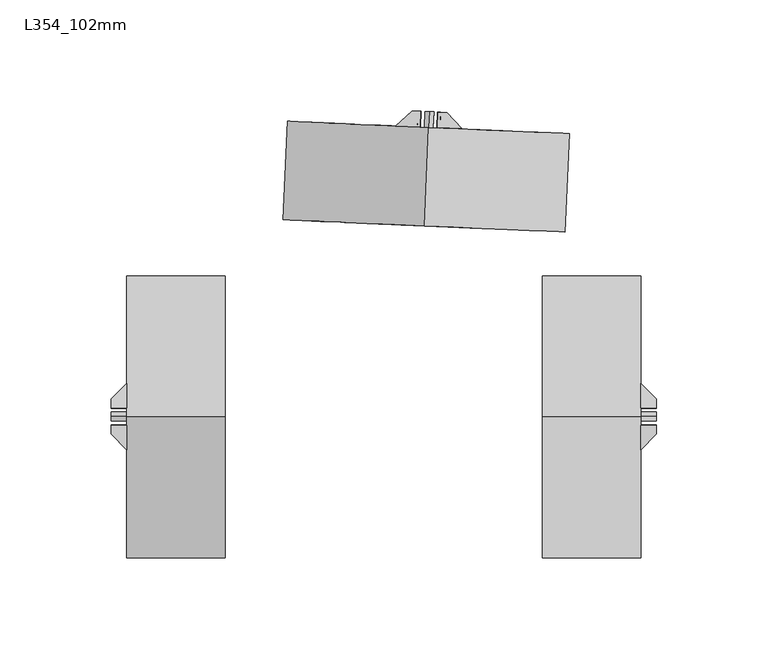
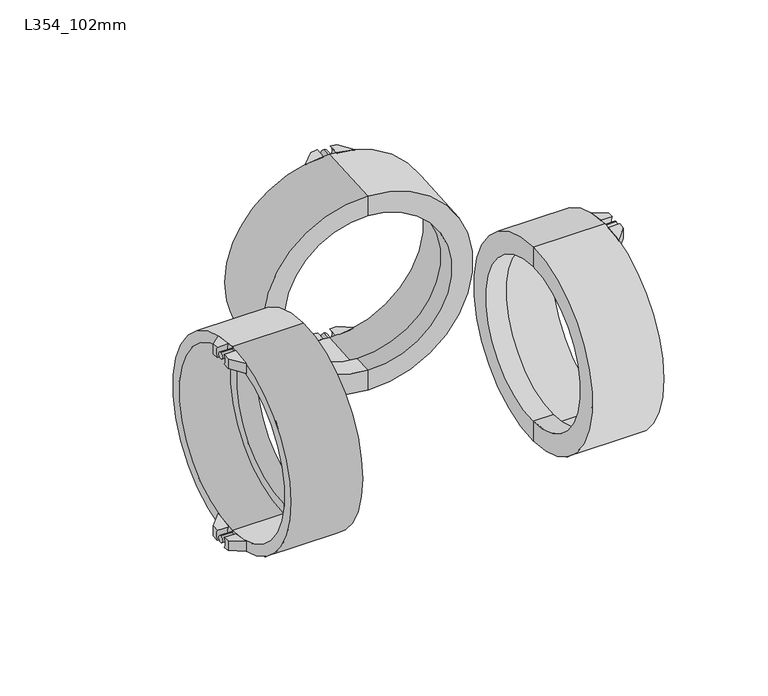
"""IFC4 building model written with IfcOpenShell, lengths in millimetres: pipe fitting geometry, Durapipe_PipeFitting_VulcatheneEnfusion_DoubleBranch_L35 : L354_102mm."""

from ifc_helpers import new_model, si_unit, point, frame, frame_2d, origin, place, context, project, spatial, polyline, circle_curve, ellipse_curve, trimmed, segment, composite_curve, outline, extrude, source, transform, mapped, element, save
from ifc_brep_helpers import plane_surface, cylinder_surface, revolved_surface, advanced_brep


def l354_102mm_f6dbf391(model_context):
    return source(origin(), model_context, "Body", "SolidModel", [
        advanced_brep(
        [(108.3904089, -3.7154965, 57.0290942), (108.3904089, -3.9197703, 63.4790942), (108.3904089, -7.94, 63.1024278), (108.3904089, -7.94, 56.5957498), (101.2904089, -15.0, 61.805825), (101.2904089, -3.9197703, 63.4790942), (101.2904089, -3.7154965, 57.0290942), (101.2904089, -15.0, 55.1463734)],
        [
            (0, 1, circle_curve(frame((108.3904089, 0.0, 60.375), z_axis=(-1.0, 0.0, 0.0), x_axis=(0.0, 0.0, -1.0)), 5.0)),
            (1, 2, circle_curve(frame((108.3904089, 0.0, 0.0), z_axis=(1.0, 0.0, 0.0), x_axis=(0.0, 0.0, -1.0)), 63.6)),
            (2, 3),
            (3, 0, circle_curve(frame((108.3904089, 0.0, 0.0), z_axis=(-1.0, 0.0, 0.0), x_axis=(0.0, 0.0, -1.0)), 57.15)),
            (4, 5, circle_curve(frame((101.2904089, 0.0, 0.0), z_axis=(-1.0, 0.0, 0.0), x_axis=(0.0, 0.0, -1.0)), 63.6)),
            (5, 6, circle_curve(frame((101.2904089, 0.0, 60.375), z_axis=(1.0, 0.0, 0.0), x_axis=(0.0, 0.0, -1.0)), 5.0)),
            (6, 7, circle_curve(frame((101.2904089, 0.0, 0.0), z_axis=(1.0, 0.0, 0.0), x_axis=(0.0, 0.0, -1.0)), 57.15)),
            (7, 4),
            (6, 0),
            (3, 7, ellipse_curve(frame((116.3753947, 0.0, 0.0), z_axis=(0.705106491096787, -0.7091014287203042, 0.0), x_axis=(-0.7091014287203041, -0.705106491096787, 0.0)), 81.0515868, 57.15)),
            (4, 2, ellipse_curve(frame((116.3753947, 0.0, 0.0), z_axis=(-0.705106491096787, 0.7091014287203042, 0.0), x_axis=(0.7091014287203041, 0.705106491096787, 0.0)), 90.1991413, 63.6)),
            (1, 5),
        ],
        [
            plane_surface(frame((108.3904089, -15.0, 61.805825), z_axis=(1.0, 0.0, 0.0), x_axis=(0.0, 0.0, -1.0))),
            plane_surface(frame((101.2904089, -15.0, 61.805825), z_axis=(-1.0, 0.0, 0.0), x_axis=(0.0, 0.0, 1.0))),
            revolved_surface(polyline([(58.90159870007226, 0.0, -57.15), (173.84919069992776, 0.0, -57.15)]), (101.2904089, 0.0, 0.0), (-1.0, 0.0, 0.0)),
            cylinder_surface(frame((101.2904089, 0.0, 0.0), z_axis=(1.0, 0.0, 0.0), x_axis=(0.0, 0.0, -1.0)), 63.6),
            revolved_surface(polyline([(108.3904089, 0.0, 55.375), (101.2904089, 0.0, 55.375)]), (101.2904089, 0.0, 60.375), (1.0, 0.0, 0.0)),
            plane_surface(frame((101.2904089, -15.0, -63.6), z_axis=(0.705106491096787, -0.7091014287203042, 0.0), x_axis=(0.0, 0.0, 1.0))),
        ],
        [
            (0, [[1, 2, 3, 4]]),
            (1, [[5, 6, 7, 8]]),
            (2, [[-7, 9, -4, 10]]),
            (3, [[-5, 11, -2, 12]]),
            (4, [[-1, -9, -6, -12]]),
            (5, [[-3, -11, -8, -10]]),
        ],
    ),
        advanced_brep(
        [(108.3904089, 3.9197703, 63.4790942), (108.3904089, 3.7154965, 57.0290942), (108.3904089, 7.94, 56.5957498), (108.3904089, 7.94, 63.1024278), (101.2904089, 3.9197703, 63.4790942), (101.2904089, 15.0, 61.805825), (101.2904089, 15.0, 55.1463734), (101.2904089, 3.7154965, 57.0290942)],
        [
            (0, 1, circle_curve(frame((108.3904089, 0.0, 60.375), z_axis=(-1.0, 0.0, 0.0), x_axis=(0.0, 0.0, -1.0)), 5.0)),
            (1, 2, circle_curve(frame((108.3904089, 0.0, 0.0), z_axis=(-1.0, 0.0, 0.0), x_axis=(0.0, 0.0, -1.0)), 57.15)),
            (2, 3),
            (3, 0, circle_curve(frame((108.3904089, 0.0, 0.0), z_axis=(1.0, 0.0, 0.0), x_axis=(0.0, 0.0, -1.0)), 63.6)),
            (4, 5, circle_curve(frame((101.2904089, 0.0, 0.0), z_axis=(-1.0, 0.0, 0.0), x_axis=(0.0, 0.0, -1.0)), 63.6)),
            (5, 6),
            (6, 7, circle_curve(frame((101.2904089, 0.0, 0.0), z_axis=(1.0, 0.0, 0.0), x_axis=(0.0, 0.0, -1.0)), 57.15)),
            (7, 4, circle_curve(frame((101.2904089, 0.0, 60.375), z_axis=(1.0, 0.0, 0.0), x_axis=(0.0, 0.0, -1.0)), 5.0)),
            (6, 2, ellipse_curve(frame((116.3753947, 0.0, 0.0), z_axis=(0.7051064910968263, 0.7091014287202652, 0.0), x_axis=(-0.7091014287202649, 0.7051064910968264, 0.0)), 81.0515868, 57.15)),
            (1, 7),
            (4, 0),
            (3, 5, ellipse_curve(frame((116.3753947, 0.0, 0.0), z_axis=(-0.7051064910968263, -0.7091014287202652, 0.0), x_axis=(0.7091014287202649, -0.7051064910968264, 0.0)), 90.1991413, 63.6)),
        ],
        [
            plane_surface(frame((108.3904089, -15.0, 61.805825), z_axis=(1.0, 0.0, 0.0), x_axis=(0.0, 0.0, -1.0))),
            plane_surface(frame((101.2904089, -15.0, 61.805825), z_axis=(-1.0, 0.0, 0.0), x_axis=(0.0, 0.0, 1.0))),
            revolved_surface(polyline([(58.90159870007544, 0.0, -57.15), (173.84919069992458, 0.0, -57.15)]), (101.2904089, 0.0, 0.0), (-1.0, 0.0, 0.0)),
            cylinder_surface(frame((101.2904089, 0.0, 0.0), z_axis=(1.0, 0.0, 0.0), x_axis=(0.0, 0.0, -1.0)), 63.6),
            revolved_surface(polyline([(108.3904089, 0.0, 55.375), (101.2904089, 0.0, 55.375)]), (101.2904089, 0.0, 60.375), (1.0, 0.0, 0.0)),
            plane_surface(frame((108.3904089, 7.94, -63.6), z_axis=(0.7051064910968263, 0.7091014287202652, 0.0), x_axis=(0.0, 0.0, 1.0))),
        ],
        [
            (0, [[1, 2, 3, 4]]),
            (1, [[5, 6, 7, 8]]),
            (2, [[-7, 9, -2, 10]]),
            (3, [[-5, 11, -4, 12]]),
            (4, [[-1, -11, -8, -10]]),
            (5, [[-3, -9, -6, -12]]),
        ],
    ),
        advanced_brep(
        [(108.3904089, -3.9197703, -63.4790942), (108.3904089, -3.7154965, -57.0290942), (108.3904089, -7.94, -56.5957498), (108.3904089, -7.94, -63.1024278), (101.2904089, -3.9197703, -63.4790942), (101.2904089, -15.0, -61.805825), (101.2904089, -15.0, -55.1463734), (101.2904089, -3.7154965, -57.0290942)],
        [
            (0, 1, circle_curve(frame((108.3904089, 0.0, -60.375), z_axis=(-1.0, 0.0, 0.0), x_axis=(0.0, 0.0, -1.0)), 5.0)),
            (1, 2, circle_curve(frame((108.3904089, 0.0, 0.0), z_axis=(-1.0, 0.0, 0.0), x_axis=(0.0, 0.0, -1.0)), 57.15)),
            (2, 3),
            (3, 0, circle_curve(frame((108.3904089, 0.0, 0.0), z_axis=(1.0, 0.0, 0.0), x_axis=(0.0, 0.0, -1.0)), 63.6)),
            (4, 5, circle_curve(frame((101.2904089, 0.0, 0.0), z_axis=(-1.0, 0.0, 0.0), x_axis=(0.0, 0.0, -1.0)), 63.6)),
            (5, 6),
            (6, 7, circle_curve(frame((101.2904089, 0.0, 0.0), z_axis=(1.0, 0.0, 0.0), x_axis=(0.0, 0.0, -1.0)), 57.15)),
            (7, 4, circle_curve(frame((101.2904089, 0.0, -60.375), z_axis=(1.0, 0.0, 0.0), x_axis=(0.0, 0.0, -1.0)), 5.0)),
            (6, 2, ellipse_curve(frame((116.3753947, 0.0, 0.0), z_axis=(0.705106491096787, -0.7091014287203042, 0.0), x_axis=(-0.7091014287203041, -0.705106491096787, 0.0)), 81.0515868, 57.15)),
            (1, 7),
            (4, 0),
            (3, 5, ellipse_curve(frame((116.3753947, 0.0, 0.0), z_axis=(-0.705106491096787, 0.7091014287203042, 0.0), x_axis=(0.7091014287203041, 0.705106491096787, 0.0)), 90.1991413, 63.6)),
        ],
        [
            plane_surface(frame((108.3904089, -15.0, 61.805825), z_axis=(1.0, 0.0, 0.0), x_axis=(0.0, 0.0, -1.0))),
            plane_surface(frame((101.2904089, -15.0, 61.805825), z_axis=(-1.0, 0.0, 0.0), x_axis=(0.0, 0.0, 1.0))),
            revolved_surface(polyline([(58.90159870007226, 0.0, -57.15), (173.84919069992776, 0.0, -57.15)]), (101.2904089, 0.0, 0.0), (-1.0, 0.0, 0.0)),
            cylinder_surface(frame((101.2904089, 0.0, 0.0), z_axis=(1.0, 0.0, 0.0), x_axis=(0.0, 0.0, -1.0)), 63.6),
            revolved_surface(polyline([(108.3904089, 0.0, -65.375), (101.2904089, 0.0, -65.375)]), (101.2904089, 0.0, -60.375), (1.0, 0.0, 0.0)),
            plane_surface(frame((101.2904089, -15.0, -63.6), z_axis=(0.705106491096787, -0.7091014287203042, 0.0), x_axis=(0.0, 0.0, 1.0))),
        ],
        [
            (0, [[1, 2, 3, 4]]),
            (1, [[5, 6, 7, 8]]),
            (2, [[-7, 9, -2, 10]]),
            (3, [[-5, 11, -4, 12]]),
            (4, [[-1, -11, -8, -10]]),
            (5, [[-3, -9, -6, -12]]),
        ],
    ),
        advanced_brep(
        [(108.3904089, 3.7154965, -57.0290942), (108.3904089, 3.9197703, -63.4790942), (108.3904089, 7.94, -63.1024278), (108.3904089, 7.94, -56.5957498), (101.2904089, 15.0, -61.805825), (101.2904089, 3.9197703, -63.4790942), (101.2904089, 3.7154965, -57.0290942), (101.2904089, 15.0, -55.1463734)],
        [
            (0, 1, circle_curve(frame((108.3904089, 0.0, -60.375), z_axis=(-1.0, 0.0, 0.0), x_axis=(0.0, 0.0, -1.0)), 5.0)),
            (1, 2, circle_curve(frame((108.3904089, 0.0, 0.0), z_axis=(1.0, 0.0, 0.0), x_axis=(0.0, 0.0, -1.0)), 63.6)),
            (2, 3),
            (3, 0, circle_curve(frame((108.3904089, 0.0, 0.0), z_axis=(-1.0, 0.0, 0.0), x_axis=(0.0, 0.0, -1.0)), 57.15)),
            (4, 5, circle_curve(frame((101.2904089, 0.0, 0.0), z_axis=(-1.0, 0.0, 0.0), x_axis=(0.0, 0.0, -1.0)), 63.6)),
            (5, 6, circle_curve(frame((101.2904089, 0.0, -60.375), z_axis=(1.0, 0.0, 0.0), x_axis=(0.0, 0.0, -1.0)), 5.0)),
            (6, 7, circle_curve(frame((101.2904089, 0.0, 0.0), z_axis=(1.0, 0.0, 0.0), x_axis=(0.0, 0.0, -1.0)), 57.15)),
            (7, 4),
            (6, 0),
            (3, 7, ellipse_curve(frame((116.3753947, 0.0, 0.0), z_axis=(0.7051064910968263, 0.7091014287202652, 0.0), x_axis=(-0.7091014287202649, 0.7051064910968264, 0.0)), 81.0515868, 57.15)),
            (4, 2, ellipse_curve(frame((116.3753947, 0.0, 0.0), z_axis=(-0.7051064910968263, -0.7091014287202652, 0.0), x_axis=(0.7091014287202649, -0.7051064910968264, 0.0)), 90.1991413, 63.6)),
            (1, 5),
        ],
        [
            plane_surface(frame((108.3904089, -15.0, 61.805825), z_axis=(1.0, 0.0, 0.0), x_axis=(0.0, 0.0, -1.0))),
            plane_surface(frame((101.2904089, -15.0, 61.805825), z_axis=(-1.0, 0.0, 0.0), x_axis=(0.0, 0.0, 1.0))),
            revolved_surface(polyline([(58.90159870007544, 0.0, -57.15), (173.84919069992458, 0.0, -57.15)]), (101.2904089, 0.0, 0.0), (-1.0, 0.0, 0.0)),
            cylinder_surface(frame((101.2904089, 0.0, 0.0), z_axis=(1.0, 0.0, 0.0), x_axis=(0.0, 0.0, -1.0)), 63.6),
            revolved_surface(polyline([(108.3904089, 0.0, -65.375), (101.2904089, 0.0, -65.375)]), (101.2904089, 0.0, -60.375), (1.0, 0.0, 0.0)),
            plane_surface(frame((108.3904089, 7.94, -63.6), z_axis=(0.7051064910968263, 0.7091014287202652, 0.0), x_axis=(0.0, 0.0, 1.0))),
        ],
        [
            (0, [[1, 2, 3, 4]]),
            (1, [[5, 6, 7, 8]]),
            (2, [[-7, 9, -4, 10]]),
            (3, [[-5, 11, -2, 12]]),
            (4, [[-1, -9, -6, -12]]),
            (5, [[-3, -11, -8, -10]]),
        ],
    ),
        extrude(outline(composite_curve([segment(trimmed(circle_curve(frame_2d((0.0, 60.375)), 2.0), [point((0.0, 62.375))], [point((0.0, 58.375))], False, "CARTESIAN"), True, "CONTINUOUS"), segment(trimmed(circle_curve(frame_2d((0.0, 60.375)), 2.0), [point((0.0, 58.375))], [point((0.0, 62.375))], False, "CARTESIAN"), True, "CONTINUOUS")], self_intersect=False)), frame((101.2904089, 0.0, 0.0), z_axis=(1.0, 0.0, 0.0), x_axis=(0.0, 1.0, 0.0)), (0.0, 0.0, 1.0), 7.1),
        extrude(outline(composite_curve([segment(trimmed(circle_curve(frame_2d((0.0, -60.375)), 2.0), [point((0.0, -58.375))], [point((0.0, -62.375))], False, "CARTESIAN"), True, "CONTINUOUS"), segment(trimmed(circle_curve(frame_2d((0.0, -60.375)), 2.0), [point((0.0, -62.375))], [point((0.0, -58.375))], False, "CARTESIAN"), True, "CONTINUOUS")], self_intersect=False)), frame((101.2904089, 0.0, 0.0), z_axis=(1.0, 0.0, 0.0), x_axis=(0.0, 1.0, 0.0)), (0.0, 0.0, 1.0), 7.1),
        advanced_brep(
        [(69.2904089, 0.0, 50.8), (69.2904089, 0.0, -50.8), (69.2904089, 0.0, -57.0), (69.2904089, 0.0, 57.0), (56.8904089, 0.0, 50.8), (56.8904089, 0.0, -50.8), (56.8904089, 0.0, 63.75), (56.8904089, 0.0, -63.75), (101.2904089, 0.0, 63.75), (101.2904089, 0.0, -63.75), (101.2904089, 0.0, 57.0), (101.2904089, 0.0, -57.0)],
        [
            (0, 1, circle_curve(frame((69.2904089, 0.0, 0.0), z_axis=(-1.0, 0.0, 0.0), x_axis=(0.0, 0.0, -1.0)), 50.8)),
            (1, 2),
            (2, 3, circle_curve(frame((69.2904089, 0.0, 0.0), z_axis=(1.0, 0.0, 0.0), x_axis=(0.0, 0.0, -1.0)), 57.0)),
            (3, 0),
            (1, 0, circle_curve(frame((69.2904089, 0.0, 0.0), z_axis=(-1.0, 0.0, 0.0), x_axis=(0.0, 0.0, -1.0)), 50.8)),
            (3, 2, circle_curve(frame((69.2904089, 0.0, 0.0), z_axis=(1.0, 0.0, 0.0), x_axis=(0.0, 0.0, -1.0)), 57.0)),
            (4, 5, circle_curve(frame((56.8904089, 0.0, 0.0), z_axis=(-1.0, 0.0, 0.0), x_axis=(0.0, 0.0, -1.0)), 50.8)),
            (5, 1),
            (0, 4),
            (5, 4, circle_curve(frame((56.8904089, 0.0, 0.0), z_axis=(-1.0, 0.0, 0.0), x_axis=(0.0, 0.0, -1.0)), 50.8)),
            (6, 7, circle_curve(frame((56.8904089, 0.0, 0.0), z_axis=(-1.0, 0.0, 0.0), x_axis=(0.0, 0.0, -1.0)), 63.75)),
            (7, 5),
            (4, 6),
            (7, 6, circle_curve(frame((56.8904089, 0.0, 0.0), z_axis=(-1.0, 0.0, 0.0), x_axis=(0.0, 0.0, -1.0)), 63.75)),
            (8, 9, circle_curve(frame((101.2904089, 0.0, 0.0), z_axis=(-1.0, 0.0, 0.0), x_axis=(0.0, 0.0, -1.0)), 63.75)),
            (9, 7),
            (6, 8),
            (9, 8, circle_curve(frame((101.2904089, 0.0, 0.0), z_axis=(-1.0, 0.0, 0.0), x_axis=(0.0, 0.0, -1.0)), 63.75)),
            (10, 11, circle_curve(frame((101.2904089, 0.0, 0.0), z_axis=(-1.0, 0.0, 0.0), x_axis=(0.0, 0.0, -1.0)), 57.0)),
            (11, 9),
            (8, 10),
            (11, 10, circle_curve(frame((101.2904089, 0.0, 0.0), z_axis=(-1.0, 0.0, 0.0), x_axis=(0.0, 0.0, -1.0)), 57.0)),
            (2, 11),
            (10, 3),
        ],
        [
            plane_surface(frame((69.2904089, 0.0, 0.0), z_axis=(1.0, 0.0, 0.0), x_axis=(0.0, 0.0, -1.0))),
            revolved_surface(polyline([(69.29040889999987, 0.0, -50.8), (56.890408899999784, 0.0, -50.8)]), (2615.273033, 0.0, 0.0), (1.0, 0.0, 0.0)),
            plane_surface(frame((56.8904089, 0.0, 0.0), z_axis=(-1.0, 0.0, 0.0), x_axis=(0.0, 0.0, -1.0))),
            cylinder_surface(frame((2615.273033, 0.0, 0.0), z_axis=(1.0, 0.0, 0.0), x_axis=(0.0, 0.0, -1.0)), 63.75),
            plane_surface(frame((101.2904089, 0.0, 0.0), z_axis=(1.0, 0.0, 0.0), x_axis=(0.0, 0.0, -1.0))),
            revolved_surface(polyline([(101.29040889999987, 0.0, -57.0), (69.29040889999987, 0.0, -57.0)]), (2615.273033, 0.0, 0.0), (1.0, 0.0, 0.0)),
        ],
        [
            (0, [[1, 2, 3, 4]]),
            (0, [[5, -4, 6, -2]]),
            (1, [[7, 8, -1, 9]]),
            (1, [[10, -9, -5, -8]]),
            (2, [[11, 12, -7, 13]]),
            (2, [[14, -13, -10, -12]]),
            (3, [[15, 16, -11, 17]]),
            (3, [[18, -17, -14, -16]]),
            (4, [[19, 20, -15, 21]]),
            (4, [[22, -21, -18, -20]]),
            (5, [[-3, 23, -19, 24]]),
            (5, [[-6, -24, -22, -23]]),
        ],
    ),
        advanced_brep(
        [(-137.5095911, -3.7154965, -57.0290942), (-137.5095911, -3.9197703, -63.4790942), (-137.5095911, -7.94, -63.1024278), (-137.5095911, -7.94, -56.5957498), (-130.4095911, -15.0, -61.805825), (-130.4095911, -3.9197703, -63.4790942), (-130.4095911, -3.7154965, -57.0290942), (-130.4095911, -15.0, -55.1463734)],
        [
            (0, 1, circle_curve(frame((-137.5095911, 0.0, -60.375), z_axis=(1.0, 0.0, 0.0), x_axis=(0.0, 0.0, 1.0)), 5.0)),
            (1, 2, circle_curve(frame((-137.5095911, 0.0, 0.0), z_axis=(-1.0, 0.0, 0.0), x_axis=(0.0, 0.0, 1.0)), 63.6)),
            (2, 3),
            (3, 0, circle_curve(frame((-137.5095911, 0.0, 0.0), z_axis=(1.0, 0.0, 0.0), x_axis=(0.0, 0.0, 1.0)), 57.15)),
            (4, 5, circle_curve(frame((-130.4095911, 0.0, 0.0), z_axis=(1.0, 0.0, 0.0), x_axis=(0.0, 0.0, 1.0)), 63.6)),
            (5, 6, circle_curve(frame((-130.4095911, 0.0, -60.375), z_axis=(-1.0, 0.0, 0.0), x_axis=(0.0, 0.0, 1.0)), 5.0)),
            (6, 7, circle_curve(frame((-130.4095911, 0.0, 0.0), z_axis=(-1.0, 0.0, 0.0), x_axis=(0.0, 0.0, 1.0)), 57.15)),
            (7, 4),
            (6, 0),
            (3, 7, ellipse_curve(frame((-145.4945769, 0.0, 0.0), z_axis=(-0.705106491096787, -0.7091014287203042, 0.0), x_axis=(0.7091014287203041, -0.7051064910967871, 0.0)), 81.0515868, 57.15)),
            (4, 2, ellipse_curve(frame((-145.4945769, 0.0, 0.0), z_axis=(0.705106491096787, 0.7091014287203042, 0.0), x_axis=(-0.7091014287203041, 0.7051064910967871, 0.0)), 90.1991413, 63.6)),
            (1, 5),
        ],
        [
            plane_surface(frame((-137.5095911, -15.0, -61.805825), z_axis=(-1.0, 0.0, 0.0), x_axis=(0.0, 0.0, 1.0))),
            plane_surface(frame((-130.4095911, -15.0, -61.805825), z_axis=(1.0, 0.0, 0.0), x_axis=(0.0, 0.0, -1.0))),
            revolved_surface(polyline([(-88.02078090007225, 0.0, 57.15), (-202.96837289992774, 0.0, 57.15)]), (-130.4095911, 0.0, 0.0), (1.0, 0.0, 0.0)),
            cylinder_surface(frame((-130.4095911, 0.0, 0.0), z_axis=(-1.0, 0.0, 0.0), x_axis=(0.0, 0.0, 1.0)), 63.6),
            revolved_surface(polyline([(-137.5095911, 0.0, -55.375), (-130.4095911, 0.0, -55.375)]), (-130.4095911, 0.0, -60.375), (-1.0, 0.0, 0.0)),
            plane_surface(frame((-130.4095911, -15.0, 63.6), z_axis=(-0.705106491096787, -0.7091014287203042, 0.0), x_axis=(0.0, 0.0, -1.0))),
        ],
        [
            (0, [[1, 2, 3, 4]]),
            (1, [[5, 6, 7, 8]]),
            (2, [[-7, 9, -4, 10]]),
            (3, [[-5, 11, -2, 12]]),
            (4, [[-1, -9, -6, -12]]),
            (5, [[-3, -11, -8, -10]]),
        ],
    ),
        advanced_brep(
        [(-137.5095911, 3.9197703, -63.4790942), (-137.5095911, 3.7154965, -57.0290942), (-137.5095911, 7.94, -56.5957498), (-137.5095911, 7.94, -63.1024278), (-130.4095911, 3.9197703, -63.4790942), (-130.4095911, 15.0, -61.805825), (-130.4095911, 15.0, -55.1463734), (-130.4095911, 3.7154965, -57.0290942)],
        [
            (0, 1, circle_curve(frame((-137.5095911, 0.0, -60.375), z_axis=(1.0, 0.0, 0.0), x_axis=(0.0, 0.0, 1.0)), 5.0)),
            (1, 2, circle_curve(frame((-137.5095911, 0.0, 0.0), z_axis=(1.0, 0.0, 0.0), x_axis=(0.0, 0.0, 1.0)), 57.15)),
            (2, 3),
            (3, 0, circle_curve(frame((-137.5095911, 0.0, 0.0), z_axis=(-1.0, 0.0, 0.0), x_axis=(0.0, 0.0, 1.0)), 63.6)),
            (4, 5, circle_curve(frame((-130.4095911, 0.0, 0.0), z_axis=(1.0, 0.0, 0.0), x_axis=(0.0, 0.0, 1.0)), 63.6)),
            (5, 6),
            (6, 7, circle_curve(frame((-130.4095911, 0.0, 0.0), z_axis=(-1.0, 0.0, 0.0), x_axis=(0.0, 0.0, 1.0)), 57.15)),
            (7, 4, circle_curve(frame((-130.4095911, 0.0, -60.375), z_axis=(-1.0, 0.0, 0.0), x_axis=(0.0, 0.0, 1.0)), 5.0)),
            (6, 2, ellipse_curve(frame((-145.4945769, 0.0, 0.0), z_axis=(-0.7051064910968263, 0.7091014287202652, 0.0), x_axis=(0.7091014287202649, 0.7051064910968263, 0.0)), 81.0515868, 57.15)),
            (1, 7),
            (4, 0),
            (3, 5, ellipse_curve(frame((-145.4945769, 0.0, 0.0), z_axis=(0.7051064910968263, -0.7091014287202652, 0.0), x_axis=(-0.7091014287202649, -0.7051064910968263, 0.0)), 90.1991413, 63.6)),
        ],
        [
            plane_surface(frame((-137.5095911, -15.0, -61.805825), z_axis=(-1.0, 0.0, 0.0), x_axis=(0.0, 0.0, 1.0))),
            plane_surface(frame((-130.4095911, -15.0, -61.805825), z_axis=(1.0, 0.0, 0.0), x_axis=(0.0, 0.0, -1.0))),
            revolved_surface(polyline([(-88.02078090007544, 0.0, 57.15), (-202.96837289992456, 0.0, 57.15)]), (-130.4095911, 0.0, 0.0), (1.0, 0.0, 0.0)),
            cylinder_surface(frame((-130.4095911, 0.0, 0.0), z_axis=(-1.0, 0.0, 0.0), x_axis=(0.0, 0.0, 1.0)), 63.6),
            revolved_surface(polyline([(-137.5095911, 0.0, -55.375), (-130.4095911, 0.0, -55.375)]), (-130.4095911, 0.0, -60.375), (-1.0, 0.0, 0.0)),
            plane_surface(frame((-137.5095911, 7.94, 63.6), z_axis=(-0.7051064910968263, 0.7091014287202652, 0.0), x_axis=(0.0, 0.0, -1.0))),
        ],
        [
            (0, [[1, 2, 3, 4]]),
            (1, [[5, 6, 7, 8]]),
            (2, [[-7, 9, -2, 10]]),
            (3, [[-5, 11, -4, 12]]),
            (4, [[-1, -11, -8, -10]]),
            (5, [[-3, -9, -6, -12]]),
        ],
    ),
        advanced_brep(
        [(-137.5095911, -3.9197703, 63.4790942), (-137.5095911, -3.7154965, 57.0290942), (-137.5095911, -7.94, 56.5957498), (-137.5095911, -7.94, 63.1024278), (-130.4095911, -3.9197703, 63.4790942), (-130.4095911, -15.0, 61.805825), (-130.4095911, -15.0, 55.1463734), (-130.4095911, -3.7154965, 57.0290942)],
        [
            (0, 1, circle_curve(frame((-137.5095911, 0.0, 60.375), z_axis=(1.0, 0.0, 0.0), x_axis=(0.0, 0.0, 1.0)), 5.0)),
            (1, 2, circle_curve(frame((-137.5095911, 0.0, 0.0), z_axis=(1.0, 0.0, 0.0), x_axis=(0.0, 0.0, 1.0)), 57.15)),
            (2, 3),
            (3, 0, circle_curve(frame((-137.5095911, 0.0, 0.0), z_axis=(-1.0, 0.0, 0.0), x_axis=(0.0, 0.0, 1.0)), 63.6)),
            (4, 5, circle_curve(frame((-130.4095911, 0.0, 0.0), z_axis=(1.0, 0.0, 0.0), x_axis=(0.0, 0.0, 1.0)), 63.6)),
            (5, 6),
            (6, 7, circle_curve(frame((-130.4095911, 0.0, 0.0), z_axis=(-1.0, 0.0, 0.0), x_axis=(0.0, 0.0, 1.0)), 57.15)),
            (7, 4, circle_curve(frame((-130.4095911, 0.0, 60.375), z_axis=(-1.0, 0.0, 0.0), x_axis=(0.0, 0.0, 1.0)), 5.0)),
            (6, 2, ellipse_curve(frame((-145.4945769, 0.0, 0.0), z_axis=(-0.705106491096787, -0.7091014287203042, 0.0), x_axis=(0.7091014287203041, -0.7051064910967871, 0.0)), 81.0515868, 57.15)),
            (1, 7),
            (4, 0),
            (3, 5, ellipse_curve(frame((-145.4945769, 0.0, 0.0), z_axis=(0.705106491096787, 0.7091014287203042, 0.0), x_axis=(-0.7091014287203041, 0.7051064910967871, 0.0)), 90.1991413, 63.6)),
        ],
        [
            plane_surface(frame((-137.5095911, -15.0, -61.805825), z_axis=(-1.0, 0.0, 0.0), x_axis=(0.0, 0.0, 1.0))),
            plane_surface(frame((-130.4095911, -15.0, -61.805825), z_axis=(1.0, 0.0, 0.0), x_axis=(0.0, 0.0, -1.0))),
            revolved_surface(polyline([(-88.02078090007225, 0.0, 57.15), (-202.96837289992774, 0.0, 57.15)]), (-130.4095911, 0.0, 0.0), (1.0, 0.0, 0.0)),
            cylinder_surface(frame((-130.4095911, 0.0, 0.0), z_axis=(-1.0, 0.0, 0.0), x_axis=(0.0, 0.0, 1.0)), 63.6),
            revolved_surface(polyline([(-137.5095911, 0.0, 65.375), (-130.4095911, 0.0, 65.375)]), (-130.4095911, 0.0, 60.375), (-1.0, 0.0, 0.0)),
            plane_surface(frame((-130.4095911, -15.0, 63.6), z_axis=(-0.705106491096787, -0.7091014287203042, 0.0), x_axis=(0.0, 0.0, -1.0))),
        ],
        [
            (0, [[1, 2, 3, 4]]),
            (1, [[5, 6, 7, 8]]),
            (2, [[-7, 9, -2, 10]]),
            (3, [[-5, 11, -4, 12]]),
            (4, [[-1, -11, -8, -10]]),
            (5, [[-3, -9, -6, -12]]),
        ],
    ),
        advanced_brep(
        [(-137.5095911, 3.7154965, 57.0290942), (-137.5095911, 3.9197703, 63.4790942), (-137.5095911, 7.94, 63.1024278), (-137.5095911, 7.94, 56.5957498), (-130.4095911, 15.0, 61.805825), (-130.4095911, 3.9197703, 63.4790942), (-130.4095911, 3.7154965, 57.0290942), (-130.4095911, 15.0, 55.1463734)],
        [
            (0, 1, circle_curve(frame((-137.5095911, 0.0, 60.375), z_axis=(1.0, 0.0, 0.0), x_axis=(0.0, 0.0, 1.0)), 5.0)),
            (1, 2, circle_curve(frame((-137.5095911, 0.0, 0.0), z_axis=(-1.0, 0.0, 0.0), x_axis=(0.0, 0.0, 1.0)), 63.6)),
            (2, 3),
            (3, 0, circle_curve(frame((-137.5095911, 0.0, 0.0), z_axis=(1.0, 0.0, 0.0), x_axis=(0.0, 0.0, 1.0)), 57.15)),
            (4, 5, circle_curve(frame((-130.4095911, 0.0, 0.0), z_axis=(1.0, 0.0, 0.0), x_axis=(0.0, 0.0, 1.0)), 63.6)),
            (5, 6, circle_curve(frame((-130.4095911, 0.0, 60.375), z_axis=(-1.0, 0.0, 0.0), x_axis=(0.0, 0.0, 1.0)), 5.0)),
            (6, 7, circle_curve(frame((-130.4095911, 0.0, 0.0), z_axis=(-1.0, 0.0, 0.0), x_axis=(0.0, 0.0, 1.0)), 57.15)),
            (7, 4),
            (6, 0),
            (3, 7, ellipse_curve(frame((-145.4945769, 0.0, 0.0), z_axis=(-0.7051064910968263, 0.7091014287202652, 0.0), x_axis=(0.7091014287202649, 0.7051064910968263, 0.0)), 81.0515868, 57.15)),
            (4, 2, ellipse_curve(frame((-145.4945769, 0.0, 0.0), z_axis=(0.7051064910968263, -0.7091014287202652, 0.0), x_axis=(-0.7091014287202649, -0.7051064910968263, 0.0)), 90.1991413, 63.6)),
            (1, 5),
        ],
        [
            plane_surface(frame((-137.5095911, -15.0, -61.805825), z_axis=(-1.0, 0.0, 0.0), x_axis=(0.0, 0.0, 1.0))),
            plane_surface(frame((-130.4095911, -15.0, -61.805825), z_axis=(1.0, 0.0, 0.0), x_axis=(0.0, 0.0, -1.0))),
            revolved_surface(polyline([(-88.02078090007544, 0.0, 57.15), (-202.96837289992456, 0.0, 57.15)]), (-130.4095911, 0.0, 0.0), (1.0, 0.0, 0.0)),
            cylinder_surface(frame((-130.4095911, 0.0, 0.0), z_axis=(-1.0, 0.0, 0.0), x_axis=(0.0, 0.0, 1.0)), 63.6),
            revolved_surface(polyline([(-137.5095911, 0.0, 65.375), (-130.4095911, 0.0, 65.375)]), (-130.4095911, 0.0, 60.375), (-1.0, 0.0, 0.0)),
            plane_surface(frame((-137.5095911, 7.94, 63.6), z_axis=(-0.7051064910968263, 0.7091014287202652, 0.0), x_axis=(0.0, 0.0, -1.0))),
        ],
        [
            (0, [[1, 2, 3, 4]]),
            (1, [[5, 6, 7, 8]]),
            (2, [[-7, 9, -4, 10]]),
            (3, [[-5, 11, -2, 12]]),
            (4, [[-1, -9, -6, -12]]),
            (5, [[-3, -11, -8, -10]]),
        ],
    ),
        extrude(outline(composite_curve([segment(trimmed(circle_curve(frame_2d((0.0, -60.375)), 2.0), [point((0.0, -62.375))], [point((0.0, -58.375))], False, "CARTESIAN"), True, "CONTINUOUS"), segment(trimmed(circle_curve(frame_2d((0.0, -60.375)), 2.0), [point((0.0, -58.375))], [point((0.0, -62.375))], False, "CARTESIAN"), True, "CONTINUOUS")], self_intersect=False)), frame((-137.5095911, 0.0, 0.0), z_axis=(1.0, 0.0, 0.0), x_axis=(0.0, 1.0, 0.0)), (0.0, 0.0, 1.0), 7.1),
        extrude(outline(composite_curve([segment(trimmed(circle_curve(frame_2d((0.0, 60.375)), 2.0), [point((0.0, 58.375))], [point((0.0, 62.375))], False, "CARTESIAN"), True, "CONTINUOUS"), segment(trimmed(circle_curve(frame_2d((0.0, 60.375)), 2.0), [point((0.0, 62.375))], [point((0.0, 58.375))], False, "CARTESIAN"), True, "CONTINUOUS")], self_intersect=False)), frame((-137.5095911, 0.0, 0.0), z_axis=(1.0, 0.0, 0.0), x_axis=(0.0, 1.0, 0.0)), (0.0, 0.0, 1.0), 7.1),
        advanced_brep(
        [(-98.4095911, 0.0, -50.8), (-98.4095911, 0.0, 50.8), (-98.4095911, 0.0, 57.0), (-98.4095911, 0.0, -57.0), (-86.0095911, 0.0, -50.8), (-86.0095911, 0.0, 50.8), (-86.0095911, 0.0, -63.75), (-86.0095911, 0.0, 63.75), (-130.4095911, 0.0, -63.75), (-130.4095911, 0.0, 63.75), (-130.4095911, 0.0, -57.0), (-130.4095911, 0.0, 57.0)],
        [
            (0, 1, circle_curve(frame((-98.4095911, 0.0, 0.0), z_axis=(1.0, 0.0, 0.0), x_axis=(0.0, 0.0, 1.0)), 50.8)),
            (1, 2),
            (2, 3, circle_curve(frame((-98.4095911, 0.0, 0.0), z_axis=(-1.0, 0.0, 0.0), x_axis=(0.0, 0.0, 1.0)), 57.0)),
            (3, 0),
            (1, 0, circle_curve(frame((-98.4095911, 0.0, 0.0), z_axis=(1.0, 0.0, 0.0), x_axis=(0.0, 0.0, 1.0)), 50.8)),
            (3, 2, circle_curve(frame((-98.4095911, 0.0, 0.0), z_axis=(-1.0, 0.0, 0.0), x_axis=(0.0, 0.0, 1.0)), 57.0)),
            (4, 5, circle_curve(frame((-86.0095911, 0.0, 0.0), z_axis=(1.0, 0.0, 0.0), x_axis=(0.0, 0.0, 1.0)), 50.8)),
            (5, 1),
            (0, 4),
            (5, 4, circle_curve(frame((-86.0095911, 0.0, 0.0), z_axis=(1.0, 0.0, 0.0), x_axis=(0.0, 0.0, 1.0)), 50.8)),
            (6, 7, circle_curve(frame((-86.0095911, 0.0, 0.0), z_axis=(1.0, 0.0, 0.0), x_axis=(0.0, 0.0, 1.0)), 63.75)),
            (7, 5),
            (4, 6),
            (7, 6, circle_curve(frame((-86.0095911, 0.0, 0.0), z_axis=(1.0, 0.0, 0.0), x_axis=(0.0, 0.0, 1.0)), 63.75)),
            (8, 9, circle_curve(frame((-130.4095911, 0.0, 0.0), z_axis=(1.0, 0.0, 0.0), x_axis=(0.0, 0.0, 1.0)), 63.75)),
            (9, 7),
            (6, 8),
            (9, 8, circle_curve(frame((-130.4095911, 0.0, 0.0), z_axis=(1.0, 0.0, 0.0), x_axis=(0.0, 0.0, 1.0)), 63.75)),
            (10, 11, circle_curve(frame((-130.4095911, 0.0, 0.0), z_axis=(1.0, 0.0, 0.0), x_axis=(0.0, 0.0, 1.0)), 57.0)),
            (11, 9),
            (8, 10),
            (11, 10, circle_curve(frame((-130.4095911, 0.0, 0.0), z_axis=(1.0, 0.0, 0.0), x_axis=(0.0, 0.0, 1.0)), 57.0)),
            (2, 11),
            (10, 3),
        ],
        [
            plane_surface(frame((-98.4095911, 0.0, 0.0), z_axis=(-1.0, 0.0, 0.0), x_axis=(0.0, 0.0, 1.0))),
            revolved_surface(polyline([(-98.40959109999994, 0.0, 50.8), (-86.00959109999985, 0.0, 50.8)]), (-2644.3922152, 0.0, 0.0), (-1.0, 0.0, 0.0)),
            plane_surface(frame((-86.0095911, 0.0, 0.0), z_axis=(1.0, 0.0, 0.0), x_axis=(0.0, 0.0, 1.0))),
            cylinder_surface(frame((-2644.3922152, 0.0, 0.0), z_axis=(-1.0, 0.0, 0.0), x_axis=(0.0, 0.0, 1.0)), 63.75),
            plane_surface(frame((-130.4095911, 0.0, 0.0), z_axis=(-1.0, 0.0, 0.0), x_axis=(0.0, 0.0, 1.0))),
            revolved_surface(polyline([(-130.40959109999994, 0.0, 57.0), (-98.40959109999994, 0.0, 57.0)]), (-2644.3922152, 0.0, 0.0), (-1.0, 0.0, 0.0)),
        ],
        [
            (0, [[1, 2, 3, 4]]),
            (0, [[5, -4, 6, -2]]),
            (1, [[7, 8, -1, 9]]),
            (1, [[10, -9, -5, -8]]),
            (2, [[11, 12, -7, 13]]),
            (2, [[14, -13, -10, -12]]),
            (3, [[15, 16, -11, 17]]),
            (3, [[18, -17, -14, -16]]),
            (4, [[19, 20, -15, 21]]),
            (4, [[22, -21, -18, -20]]),
            (5, [[-3, 23, -19, 24]]),
            (5, [[-6, -24, -22, -23]]),
        ],
    ),
        advanced_brep(
        [(2.2861239, 137.5407801, -57.0290942), (2.0820446, 137.5496904, -63.4790942), (-1.9343588, 137.7250504, -63.1024278), (-1.9343588, 137.7250504, -56.5957498), (-9.2973369, 130.9397609, -61.805825), (1.7723469, 130.456448, -63.4790942), (1.9764263, 130.4475378, -57.0290942), (-9.2973369, 130.9397609, -55.1463734)],
        [
            (0, 1, circle_curve(frame((5.9980841, 137.3787124, -60.375), z_axis=(-0.04361938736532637, -0.9990482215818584, 0.0), x_axis=(0.0, 0.0, 1.0)), 5.0)),
            (1, 2, circle_curve(frame((5.9980841, 137.3787124, 0.0), z_axis=(0.04361938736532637, 0.9990482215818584, 0.0), x_axis=(0.0, 0.0, 1.0)), 63.6)),
            (2, 3),
            (3, 0, circle_curve(frame((5.9980841, 137.3787124, 0.0), z_axis=(-0.04361938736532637, -0.9990482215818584, 0.0), x_axis=(0.0, 0.0, 1.0)), 57.15)),
            (4, 5, circle_curve(frame((5.6883865, 130.2854701, 0.0), z_axis=(-0.04361938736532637, -0.9990482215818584, 0.0), x_axis=(0.0, 0.0, 1.0)), 63.6)),
            (5, 6, circle_curve(frame((5.6883865, 130.2854701, -60.375), z_axis=(0.04361938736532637, 0.9990482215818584, 0.0), x_axis=(0.0, 0.0, 1.0)), 5.0)),
            (6, 7, circle_curve(frame((5.6883865, 130.2854701, 0.0), z_axis=(0.04361938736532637, 0.9990482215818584, 0.0), x_axis=(0.0, 0.0, 1.0)), 57.15)),
            (7, 4),
            (6, 0),
            (3, 7, ellipse_curve(frame((6.3463843, 145.3560983, 0.0), z_axis=(-0.6776702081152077, 0.735365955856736, 0.0), x_axis=(-0.7353659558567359, -0.6776702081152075, 0.0)), 81.0515868, 57.15)),
            (4, 2, ellipse_curve(frame((6.3463843, 145.3560983, 0.0), z_axis=(0.6776702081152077, -0.735365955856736, 0.0), x_axis=(0.7353659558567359, 0.6776702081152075, 0.0)), 90.1991413, 63.6)),
            (1, 5),
        ],
        [
            plane_surface(frame((-8.9876392, 138.0330033, -61.805825), z_axis=(0.04361938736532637, 0.9990482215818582, 0.0), x_axis=(0.0, 0.0, 1.0))),
            plane_surface(frame((-9.2973369, 130.9397609, -61.805825), z_axis=(-0.04361938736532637, -0.9990482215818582, 0.0), x_axis=(0.0, 0.0, -1.0))),
            revolved_surface(polyline([(3.839412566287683, 87.93700461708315, 57.15), (8.853356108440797, 202.77519197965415, 57.15)]), (5.6883865, 130.2854701, 0.0), (-0.04361938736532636, -0.9990482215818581, 0.0)),
            cylinder_surface(frame((5.6883865, 130.2854701, 0.0), z_axis=(0.04361938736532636, 0.9990482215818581, 0.0), x_axis=(0.0, 0.0, 1.0)), 63.6),
            revolved_surface(polyline([(5.998084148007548, 137.378712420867, -55.375), (5.688386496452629, 130.28547001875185, -55.375)]), (5.6883865, 130.2854701, -60.375), (0.04361938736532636, 0.9990482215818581, 0.0)),
            plane_surface(frame((-9.2973369, 130.9397609, 63.6), z_axis=(-0.6776702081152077, 0.735365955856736, 0.0), x_axis=(0.0, 0.0, -1.0))),
        ],
        [
            (0, [[1, 2, 3, 4]]),
            (1, [[5, 6, 7, 8]]),
            (2, [[-7, 9, -4, 10]]),
            (3, [[-5, 11, -2, 12]]),
            (4, [[-1, -9, -6, -12]]),
            (5, [[-3, -11, -8, -10]]),
        ],
    ),
        advanced_brep(
        [(9.9141237, 137.2077345, -63.4790942), (9.7100443, 137.2166448, -57.0290942), (13.930527, 137.0323745, -56.5957498), (13.930527, 137.0323745, -63.1024278), (9.604426, 130.1144921, -63.4790942), (20.6741098, 129.6311793, -61.805825), (20.6741098, 129.6311793, -55.1463734), (9.4003467, 130.1234024, -57.0290942)],
        [
            (0, 1, circle_curve(frame((5.9980841, 137.3787124, -60.375), z_axis=(-0.04361938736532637, -0.9990482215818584, 0.0), x_axis=(0.0, 0.0, 1.0)), 5.0)),
            (1, 2, circle_curve(frame((5.9980841, 137.3787124, 0.0), z_axis=(-0.04361938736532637, -0.9990482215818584, 0.0), x_axis=(0.0, 0.0, 1.0)), 57.15)),
            (2, 3),
            (3, 0, circle_curve(frame((5.9980841, 137.3787124, 0.0), z_axis=(0.04361938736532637, 0.9990482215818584, 0.0), x_axis=(0.0, 0.0, 1.0)), 63.6)),
            (4, 5, circle_curve(frame((5.6883865, 130.2854701, 0.0), z_axis=(-0.04361938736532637, -0.9990482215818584, 0.0), x_axis=(0.0, 0.0, 1.0)), 63.6)),
            (5, 6),
            (6, 7, circle_curve(frame((5.6883865, 130.2854701, 0.0), z_axis=(0.04361938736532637, 0.9990482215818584, 0.0), x_axis=(0.0, 0.0, 1.0)), 57.15)),
            (7, 4, circle_curve(frame((5.6883865, 130.2854701, -60.375), z_axis=(0.04361938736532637, 0.9990482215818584, 0.0), x_axis=(0.0, 0.0, 1.0)), 5.0)),
            (6, 2, ellipse_curve(frame((6.3463843, 145.3560983, 0.0), z_axis=(0.7391828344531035, 0.6735048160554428, 0.0), x_axis=(0.6735048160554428, -0.7391828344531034, 0.0)), 81.0515868, 57.15)),
            (1, 7),
            (4, 0),
            (3, 5, ellipse_curve(frame((6.3463843, 145.3560983, 0.0), z_axis=(-0.7391828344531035, -0.6735048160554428, 0.0), x_axis=(-0.6735048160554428, 0.7391828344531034, 0.0)), 90.1991413, 63.6)),
        ],
        [
            plane_surface(frame((-8.9876392, 138.0330033, -61.805825), z_axis=(0.04361938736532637, 0.9990482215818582, 0.0), x_axis=(0.0, 0.0, 1.0))),
            plane_surface(frame((-9.2973369, 130.9397609, -61.805825), z_axis=(-0.04361938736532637, -0.9990482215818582, 0.0), x_axis=(0.0, 0.0, -1.0))),
            revolved_surface(polyline([(3.839412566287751, 87.93700461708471, 57.15), (8.85335610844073, 202.77519197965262, 57.15)]), (5.6883865, 130.2854701, 0.0), (-0.04361938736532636, -0.9990482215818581, 0.0)),
            cylinder_surface(frame((5.6883865, 130.2854701, 0.0), z_axis=(0.04361938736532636, 0.9990482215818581, 0.0), x_axis=(0.0, 0.0, 1.0)), 63.6),
            revolved_surface(polyline([(5.998084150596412, 137.37871248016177, -55.375), (5.68838649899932, 130.28547007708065, -55.375)]), (5.6883865, 130.2854701, -60.375), (0.04361938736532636, 0.9990482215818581, 0.0)),
            plane_surface(frame((13.930527, 137.0323745, 63.6), z_axis=(0.7391828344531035, 0.6735048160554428, 0.0), x_axis=(0.0, 0.0, -1.0))),
        ],
        [
            (0, [[1, 2, 3, 4]]),
            (1, [[5, 6, 7, 8]]),
            (2, [[-7, 9, -2, 10]]),
            (3, [[-5, 11, -4, 12]]),
            (4, [[-1, -11, -8, -10]]),
            (5, [[-3, -9, -6, -12]]),
        ],
    ),
        advanced_brep(
        [(2.0820446, 137.5496904, 63.4790942), (2.2861239, 137.5407801, 57.0290942), (-1.9343588, 137.7250504, 56.5957498), (-1.9343588, 137.7250504, 63.1024278), (1.7723469, 130.456448, 63.4790942), (-9.2973369, 130.9397609, 61.805825), (-9.2973369, 130.9397609, 55.1463734), (1.9764263, 130.4475378, 57.0290942)],
        [
            (0, 1, circle_curve(frame((5.9980841, 137.3787124, 60.375), z_axis=(-0.04361938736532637, -0.9990482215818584, 0.0), x_axis=(0.0, 0.0, 1.0)), 5.0)),
            (1, 2, circle_curve(frame((5.9980841, 137.3787124, 0.0), z_axis=(-0.04361938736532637, -0.9990482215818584, 0.0), x_axis=(0.0, 0.0, 1.0)), 57.15)),
            (2, 3),
            (3, 0, circle_curve(frame((5.9980841, 137.3787124, 0.0), z_axis=(0.04361938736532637, 0.9990482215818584, 0.0), x_axis=(0.0, 0.0, 1.0)), 63.6)),
            (4, 5, circle_curve(frame((5.6883865, 130.2854701, 0.0), z_axis=(-0.04361938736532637, -0.9990482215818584, 0.0), x_axis=(0.0, 0.0, 1.0)), 63.6)),
            (5, 6),
            (6, 7, circle_curve(frame((5.6883865, 130.2854701, 0.0), z_axis=(0.04361938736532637, 0.9990482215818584, 0.0), x_axis=(0.0, 0.0, 1.0)), 57.15)),
            (7, 4, circle_curve(frame((5.6883865, 130.2854701, 60.375), z_axis=(0.04361938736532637, 0.9990482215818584, 0.0), x_axis=(0.0, 0.0, 1.0)), 5.0)),
            (6, 2, ellipse_curve(frame((6.3463843, 145.3560983, 0.0), z_axis=(-0.6776702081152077, 0.735365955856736, 0.0), x_axis=(-0.7353659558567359, -0.6776702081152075, 0.0)), 81.0515868, 57.15)),
            (1, 7),
            (4, 0),
            (3, 5, ellipse_curve(frame((6.3463843, 145.3560983, 0.0), z_axis=(0.6776702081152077, -0.735365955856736, 0.0), x_axis=(0.7353659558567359, 0.6776702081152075, 0.0)), 90.1991413, 63.6)),
        ],
        [
            plane_surface(frame((-8.9876392, 138.0330033, -61.805825), z_axis=(0.04361938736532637, 0.9990482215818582, 0.0), x_axis=(0.0, 0.0, 1.0))),
            plane_surface(frame((-9.2973369, 130.9397609, -61.805825), z_axis=(-0.04361938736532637, -0.9990482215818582, 0.0), x_axis=(0.0, 0.0, -1.0))),
            revolved_surface(polyline([(3.839412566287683, 87.93700461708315, 57.15), (8.853356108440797, 202.77519197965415, 57.15)]), (5.6883865, 130.2854701, 0.0), (-0.04361938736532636, -0.9990482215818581, 0.0)),
            cylinder_surface(frame((5.6883865, 130.2854701, 0.0), z_axis=(0.04361938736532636, 0.9990482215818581, 0.0), x_axis=(0.0, 0.0, 1.0)), 63.6),
            revolved_surface(polyline([(5.998084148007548, 137.378712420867, 65.375), (5.688386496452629, 130.28547001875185, 65.375)]), (5.6883865, 130.2854701, 60.375), (0.04361938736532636, 0.9990482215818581, 0.0)),
            plane_surface(frame((-9.2973369, 130.9397609, 63.6), z_axis=(-0.6776702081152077, 0.735365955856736, 0.0), x_axis=(0.0, 0.0, -1.0))),
        ],
        [
            (0, [[1, 2, 3, 4]]),
            (1, [[5, 6, 7, 8]]),
            (2, [[-7, 9, -2, 10]]),
            (3, [[-5, 11, -4, 12]]),
            (4, [[-1, -11, -8, -10]]),
            (5, [[-3, -9, -6, -12]]),
        ],
    ),
        advanced_brep(
        [(9.7100443, 137.2166448, 57.0290942), (9.9141237, 137.2077345, 63.4790942), (13.930527, 137.0323745, 63.1024278), (13.930527, 137.0323745, 56.5957498), (20.6741098, 129.6311793, 61.805825), (9.604426, 130.1144921, 63.4790942), (9.4003467, 130.1234024, 57.0290942), (20.6741098, 129.6311793, 55.1463734)],
        [
            (0, 1, circle_curve(frame((5.9980841, 137.3787124, 60.375), z_axis=(-0.04361938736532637, -0.9990482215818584, 0.0), x_axis=(0.0, 0.0, 1.0)), 5.0)),
            (1, 2, circle_curve(frame((5.9980841, 137.3787124, 0.0), z_axis=(0.04361938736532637, 0.9990482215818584, 0.0), x_axis=(0.0, 0.0, 1.0)), 63.6)),
            (2, 3),
            (3, 0, circle_curve(frame((5.9980841, 137.3787124, 0.0), z_axis=(-0.04361938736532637, -0.9990482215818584, 0.0), x_axis=(0.0, 0.0, 1.0)), 57.15)),
            (4, 5, circle_curve(frame((5.6883865, 130.2854701, 0.0), z_axis=(-0.04361938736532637, -0.9990482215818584, 0.0), x_axis=(0.0, 0.0, 1.0)), 63.6)),
            (5, 6, circle_curve(frame((5.6883865, 130.2854701, 60.375), z_axis=(0.04361938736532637, 0.9990482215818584, 0.0), x_axis=(0.0, 0.0, 1.0)), 5.0)),
            (6, 7, circle_curve(frame((5.6883865, 130.2854701, 0.0), z_axis=(0.04361938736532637, 0.9990482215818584, 0.0), x_axis=(0.0, 0.0, 1.0)), 57.15)),
            (7, 4),
            (6, 0),
            (3, 7, ellipse_curve(frame((6.3463843, 145.3560983, 0.0), z_axis=(0.7391828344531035, 0.6735048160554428, 0.0), x_axis=(0.6735048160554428, -0.7391828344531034, 0.0)), 81.0515868, 57.15)),
            (4, 2, ellipse_curve(frame((6.3463843, 145.3560983, 0.0), z_axis=(-0.7391828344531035, -0.6735048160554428, 0.0), x_axis=(-0.6735048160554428, 0.7391828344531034, 0.0)), 90.1991413, 63.6)),
            (1, 5),
        ],
        [
            plane_surface(frame((-8.9876392, 138.0330033, -61.805825), z_axis=(0.04361938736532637, 0.9990482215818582, 0.0), x_axis=(0.0, 0.0, 1.0))),
            plane_surface(frame((-9.2973369, 130.9397609, -61.805825), z_axis=(-0.04361938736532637, -0.9990482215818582, 0.0), x_axis=(0.0, 0.0, -1.0))),
            revolved_surface(polyline([(3.839412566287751, 87.93700461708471, 57.15), (8.85335610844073, 202.77519197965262, 57.15)]), (5.6883865, 130.2854701, 0.0), (-0.04361938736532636, -0.9990482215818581, 0.0)),
            cylinder_surface(frame((5.6883865, 130.2854701, 0.0), z_axis=(0.04361938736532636, 0.9990482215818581, 0.0), x_axis=(0.0, 0.0, 1.0)), 63.6),
            revolved_surface(polyline([(5.998084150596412, 137.37871248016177, 65.375), (5.68838649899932, 130.28547007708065, 65.375)]), (5.6883865, 130.2854701, 60.375), (0.04361938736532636, 0.9990482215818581, 0.0)),
            plane_surface(frame((13.930527, 137.0323745, 63.6), z_axis=(0.7391828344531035, 0.6735048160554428, 0.0), x_axis=(0.0, 0.0, -1.0))),
        ],
        [
            (0, [[1, 2, 3, 4]]),
            (1, [[5, 6, 7, 8]]),
            (2, [[-7, 9, -4, 10]]),
            (3, [[-5, 11, -2, 12]]),
            (4, [[-1, -9, -6, -12]]),
            (5, [[-3, -11, -8, -10]]),
        ],
    ),
        extrude(outline(composite_curve([segment(trimmed(circle_curve(frame_2d((0.0, -2.0)), 2.0), [point((0.0, -4.0))], [point((0.0, 0.0))], False, "CARTESIAN"), True, "CONTINUOUS"), segment(trimmed(circle_curve(frame_2d((0.0, -2.0)), 2.0), [point((0.0, 0.0))], [point((0.0, -4.0))], False, "CARTESIAN"), True, "CONTINUOUS")], self_intersect=False)), frame((5.6883865, 130.2854701, -58.375), z_axis=(0.04361938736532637, 0.9990482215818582, 0.0), x_axis=(-0.9990482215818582, 0.04361938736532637, 0.0)), (0.0, 0.0, 1.0), 7.1),
        extrude(outline(composite_curve([segment(trimmed(circle_curve(frame_2d((0.0, 118.75)), 2.0), [point((0.0, 116.75))], [point((0.0, 120.75))], False, "CARTESIAN"), True, "CONTINUOUS"), segment(trimmed(circle_curve(frame_2d((0.0, 118.75)), 2.0), [point((0.0, 120.75))], [point((0.0, 116.75))], False, "CARTESIAN"), True, "CONTINUOUS")], self_intersect=False)), frame((5.6883865, 130.2854701, -58.375), z_axis=(0.04361938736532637, 0.9990482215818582, 0.0), x_axis=(-0.9990482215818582, 0.04361938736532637, 0.0)), (0.0, 0.0, 1.0), 7.1),
        advanced_brep(
        [(4.2925661, 98.315927, -50.8), (4.2925661, 98.315927, 50.8), (4.2925661, 98.315927, 57.0), (4.2925661, 98.315927, -57.0), (3.7516857, 85.927729, -50.8), (3.7516857, 85.927729, 50.8), (3.7516857, 85.927729, -63.75), (3.7516857, 85.927729, 63.75), (5.6883865, 130.2854701, -63.75), (5.6883865, 130.2854701, 63.75), (5.6883865, 130.2854701, -57.0), (5.6883865, 130.2854701, 57.0)],
        [
            (0, 1, circle_curve(frame((4.2925661, 98.315927, 0.0), z_axis=(-0.04361938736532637, -0.9990482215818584, 0.0), x_axis=(0.0, 0.0, 1.0)), 50.8)),
            (1, 2),
            (2, 3, circle_curve(frame((4.2925661, 98.315927, 0.0), z_axis=(0.04361938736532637, 0.9990482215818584, 0.0), x_axis=(0.0, 0.0, 1.0)), 57.0)),
            (3, 0),
            (1, 0, circle_curve(frame((4.2925661, 98.315927, 0.0), z_axis=(-0.04361938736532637, -0.9990482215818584, 0.0), x_axis=(0.0, 0.0, 1.0)), 50.8)),
            (3, 2, circle_curve(frame((4.2925661, 98.315927, 0.0), z_axis=(0.04361938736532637, 0.9990482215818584, 0.0), x_axis=(0.0, 0.0, 1.0)), 57.0)),
            (4, 5, circle_curve(frame((3.7516857, 85.927729, 0.0), z_axis=(-0.04361938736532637, -0.9990482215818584, 0.0), x_axis=(0.0, 0.0, 1.0)), 50.8)),
            (5, 1),
            (0, 4),
            (5, 4, circle_curve(frame((3.7516857, 85.927729, 0.0), z_axis=(-0.04361938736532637, -0.9990482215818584, 0.0), x_axis=(0.0, 0.0, 1.0)), 50.8)),
            (6, 7, circle_curve(frame((3.7516857, 85.927729, 0.0), z_axis=(-0.04361938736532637, -0.9990482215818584, 0.0), x_axis=(0.0, 0.0, 1.0)), 63.75)),
            (7, 5),
            (4, 6),
            (7, 6, circle_curve(frame((3.7516857, 85.927729, 0.0), z_axis=(-0.04361938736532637, -0.9990482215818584, 0.0), x_axis=(0.0, 0.0, 1.0)), 63.75)),
            (8, 9, circle_curve(frame((5.6883865, 130.2854701, 0.0), z_axis=(-0.04361938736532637, -0.9990482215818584, 0.0), x_axis=(0.0, 0.0, 1.0)), 63.75)),
            (9, 7),
            (6, 8),
            (9, 8, circle_curve(frame((5.6883865, 130.2854701, 0.0), z_axis=(-0.04361938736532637, -0.9990482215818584, 0.0), x_axis=(0.0, 0.0, 1.0)), 63.75)),
            (10, 11, circle_curve(frame((5.6883865, 130.2854701, 0.0), z_axis=(-0.04361938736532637, -0.9990482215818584, 0.0), x_axis=(0.0, 0.0, 1.0)), 57.0)),
            (11, 9),
            (8, 10),
            (11, 10, circle_curve(frame((5.6883865, 130.2854701, 0.0), z_axis=(-0.04361938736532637, -0.9990482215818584, 0.0), x_axis=(0.0, 0.0, 1.0)), 57.0)),
            (2, 11),
            (10, 3),
        ],
        [
            plane_surface(frame((4.2925661, 98.315927, 0.0), z_axis=(0.04361938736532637, 0.9990482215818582, 0.0), x_axis=(0.0, 0.0, 1.0))),
            revolved_surface(polyline([(4.292566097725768, 98.31592700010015, 50.8), (3.75168569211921, 85.92772900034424, 50.8)]), (115.3467684, 2641.8753397, 0.0), (0.04361938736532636, 0.9990482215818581, 0.0)),
            plane_surface(frame((3.7516857, 85.927729, 0.0), z_axis=(-0.04361938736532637, -0.9990482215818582, 0.0), x_axis=(0.0, 0.0, 1.0))),
            cylinder_surface(frame((115.3467684, 2641.8753397, 0.0), z_axis=(0.04361938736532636, 0.9990482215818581, 0.0), x_axis=(0.0, 0.0, 1.0)), 63.75),
            plane_surface(frame((5.6883865, 130.2854701, 0.0), z_axis=(0.04361938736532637, 0.9990482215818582, 0.0), x_axis=(0.0, 0.0, 1.0))),
            revolved_surface(polyline([(5.6883864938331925, 130.28547010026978, 57.0), (4.292566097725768, 98.31592700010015, 57.0)]), (115.3467684, 2641.8753397, 0.0), (0.04361938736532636, 0.9990482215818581, 0.0)),
        ],
        [
            (0, [[1, 2, 3, 4]]),
            (0, [[5, -4, 6, -2]]),
            (1, [[7, 8, -1, 9]]),
            (1, [[10, -9, -5, -8]]),
            (2, [[11, 12, -7, 13]]),
            (2, [[14, -13, -10, -12]]),
            (3, [[15, 16, -11, 17]]),
            (3, [[18, -17, -14, -16]]),
            (4, [[19, 20, -15, 21]]),
            (4, [[22, -21, -18, -20]]),
            (5, [[-3, 23, -19, 24]]),
            (5, [[-6, -24, -22, -23]]),
        ],
    ),
    ])


if __name__ == "__main__":
    model = new_model("IFC4")
    model_context = context("Model", 3, world=origin())
    ifc_project = project(units=[si_unit("LENGTHUNIT", "METRE", prefix="MILLI")], contexts=[model_context])
    site = spatial("IfcSite", under=ifc_project)
    building = spatial("IfcBuilding", under=site)
    placement = place(None, origin())
    l354_102mm_shape = l354_102mm_f6dbf391(model_context)
    element("IfcPipeFitting", 1, ObjectType="Durapipe_PipeFitting_VulcatheneEnfusion_DoubleBranch_L35 : L354_102mm", at=placement, inside=building, context=model_context, shape_type="MappedRepresentation", body=[
        mapped(l354_102mm_shape, transform((0.0, 0.0, 0.0), x_axis=(1.0, 0.0, 0.0), y_axis=(0.0, 1.0, 0.0), z_axis=(0.0, 0.0, 1.0))),
    ])
    save(model, "model.ifc")
